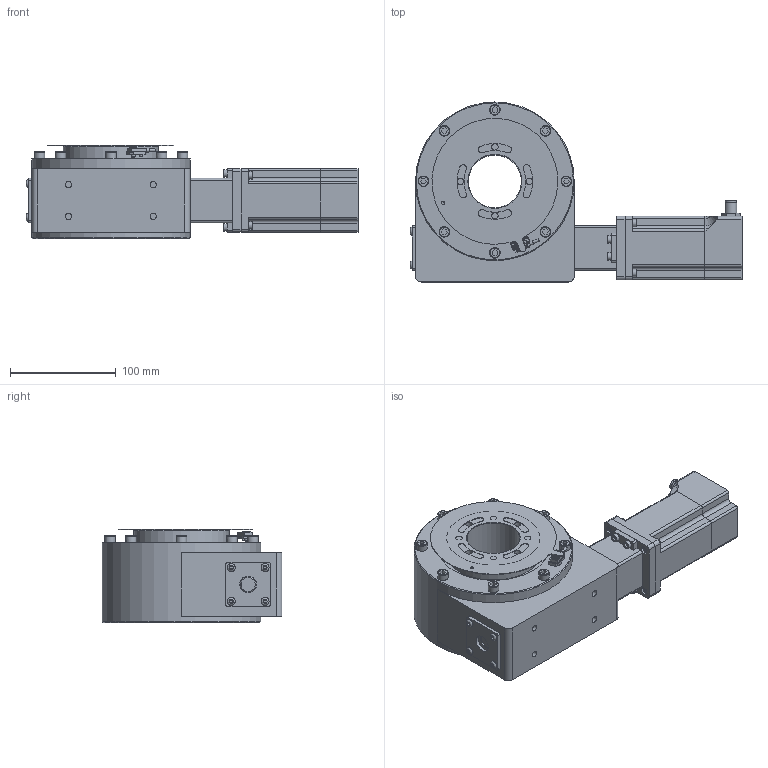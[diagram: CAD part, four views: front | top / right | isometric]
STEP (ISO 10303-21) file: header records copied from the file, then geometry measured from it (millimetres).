
FILE_DESCRIPTION(/* description */ (''),/* implementation_level */ '2;1');
FILE_NAME(/* name */ 'I:\Gleitlager\Konstruktion\robolink\Vorserie\#A Baugruppen\A0210\RL-D-50-A0210.stp',/* time_stamp */ '2020-12-17T12:53:23+01:00',/* author */ ('mraak'),/* organization */ (''),/* preprocessor_version */ 'ST-DEVELOPER v18.1',/* originating_system */ 'Autodesk Inventor 2020',/* authorisation */ '');
FILE_SCHEMA (('AUTOMOTIVE_DESIGN { 1 0 10303 214 3 1 1 }'));
Length unit declared in the file: millimetre
Products named in the file (18): RL-D-50-A0210; D00129256.ipt; RL-D-50-MK-C-N23XL-02; MOT-AN-S-060-035-060-M-C-AAAC; RL-D-CH-50-L-01; RL-D-FG-50-N23XL-L-01; COU-AR-K-080-150-32-32-B-AAAA; NOR-10574; NOR-10552; NOR-10102; RL-D-50-IK-01-T; RL-D-IT-50-01; INI-AB-I-025-A-AA; NOR-10726; RL-MAT0119; RL-D-CX-50-01; RL-MAT0134; NOR-12214
Assembly tree (40 placements, depth 4):
  RL-D-50-A0210
    D00129256.ipt
    RL-D-50-MK-C-N23XL-02
      MOT-AN-S-060-035-060-M-C-AAAC
      RL-D-CH-50-L-01
      RL-D-FG-50-N23XL-L-01
      COU-AR-K-080-150-32-32-B-AAAA
        #26917
        #26918
        #26919
      NOR-10574  x4
      NOR-10552  x8
      NOR-10102  x8
    RL-D-50-IK-01-T
      RL-D-IT-50-01
      INI-AB-I-025-A-AA
      NOR-10726
      RL-MAT0119
    RL-D-CX-50-01
      RL-MAT0134
      NOR-12214  x4
Bounding box: 313.7 x 170 x 88 mm (x, y, z)
Volume: 1976052.8 mm3; surface area: 242273 mm2
Topology: 54 solids, 54 shells, 1129 faces, 2844 edges, 1935 vertices
Faces by surface type: plane 697, cylinder 275, cone 95, torus 58, bspline 4
Full cylindrical faces by diameter (mm): 1.42 x1, 2 x2, 2.4 x1, 2.5 x1, 2.6 x1, 3 x1, 3.1 x1, 3.242 x8, 3.5 x1, 3.6 x1, 3.741 x2, 4 x26, 4.2 x2, 4.3 x20, 5 x6, 6 x20, 7 x15, 7.4 x2, 7.6 x4, 8 x1, 8.05 x1, 8.2 x2, 10 x16, 10.4 x2, 11 x10, 14 x1, 15 x2, 16 x1, 18 x2, 22 x3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
Entity records: 27023 total; most frequent: CARTESIAN_POINT 4970, DIRECTION 4538, ORIENTED_EDGE 4168, EDGE_CURVE 2084, AXIS2_PLACEMENT_3D 1624, VERTEX_POINT 1411, LINE 1290, VECTOR 1290
